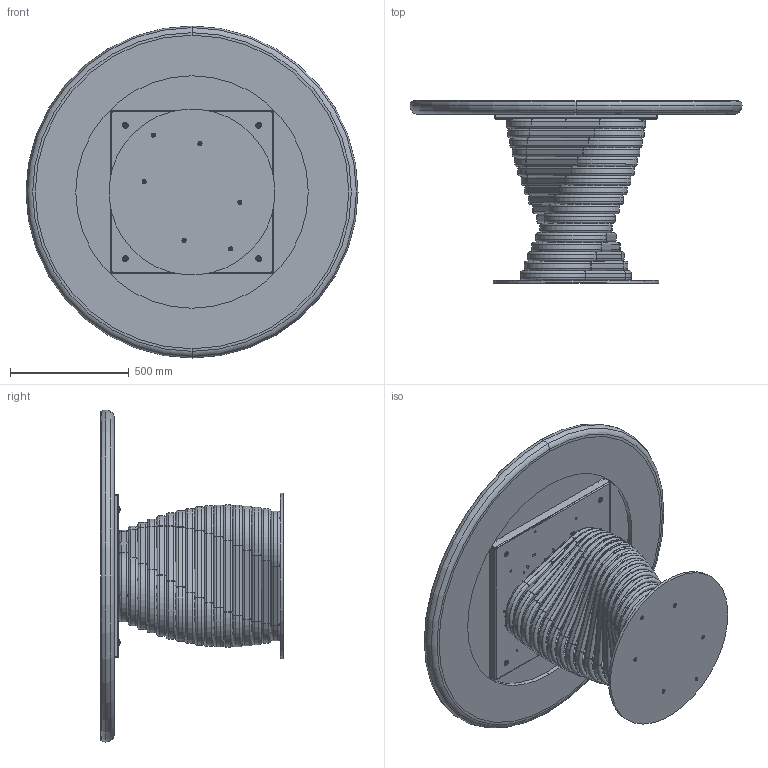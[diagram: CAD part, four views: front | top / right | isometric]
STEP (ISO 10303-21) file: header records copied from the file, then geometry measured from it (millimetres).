
FILE_DESCRIPTION (( 'STEP AP203' ), '1' );
FILE_NAME ('RO06K_Rotolo_d.140_King.STEP', '2024-08-02T07:04:59', ( '' ), ( '' ), 'SwSTEP 2.0', 'SolidWorks 2022', '' );
FILE_SCHEMA (( 'CONFIG_CONTROL_DESIGN' ));
Length unit declared in the file: millimetre
Products named in the file (15): TTAV0801-02-TELAIO UNIVERSALE TONDO-VASSOIO; K92-00-PIANO SOLO CERAMICA D.136.7cm X PIANO C BORDO; W92-01-PIANO KING BORDO Ø140 SAGOMATO LACCATO; ROBX00000MED-00-Anello rotolo MEDIO_Default<A macchina>; COLLO TELAIO UNIVERSALE TTAV0801 CON FERRAMENTA_MTG TOP LEGNO-MARMO-KING; ASSIEME PIANO KING_PIANO+CERAMICA DIAM140; TTAV0801-02-TELAIO UNIVERSALE TONDO; ROBX00000SUP-00-Anello rotolo SUPERIORE_Default<A macchina>; RO06K_Rotolo_d.140_King; ROBX00000-00-ROTOLO BASE 17 ANELLI; ROB200000-00-PIASTRA BASE_Ø70cm; M8xXXmm_M8x55mm; ROBX00000INF-00-Anello rotolo INFERIORE_Default<A macchina>; rondella M8_8X24; TTAV0801 TELAIO UNIVERSALE TONDO-PIASTRINA
Assembly tree (37 placements, depth 4):
  RO06K_Rotolo_d.140_King
    ROB200000-00-PIASTRA BASE_Ø70cm
    ROBX00000-00-ROTOLO BASE 17 ANELLI
      ROBX00000INF-00-Anello rotolo INFERIORE_Default<A macchina>
      ROBX00000MED-00-Anello rotolo MEDIO_Default<A macchina>  x15
      ROBX00000SUP-00-Anello rotolo SUPERIORE_Default<A macchina>
    COLLO TELAIO UNIVERSALE TTAV0801 CON FERRAMENTA_MTG TOP LEGNO-MARMO-KING
      TTAV0801-02-TELAIO UNIVERSALE TONDO
        TTAV0801-02-TELAIO UNIVERSALE TONDO-VASSOIO
        TTAV0801 TELAIO UNIVERSALE TONDO-PIASTRINA  x4
      rondella M8_8X24  x4
      M8xXXmm_M8x55mm  x4
    ASSIEME PIANO KING_PIANO+CERAMICA DIAM140
      W92-01-PIANO KING BORDO Ø140 SAGOMATO LACCATO
      K92-00-PIANO SOLO CERAMICA D.136.7cm X PIANO C BORDO
Bounding box: 1400 x 768 x 1400 mm (x, y, z)
Volume: 80859522.3 mm3; surface area: 13160345.9 mm2
Topology: 84 solids, 84 shells, 1414 faces, 3586 edges, 2324 vertices
Faces by surface type: cylinder 586, plane 562, torus 194, cone 72
Entity records: 22039 total; most frequent: CARTESIAN_POINT 4962, DIRECTION 3226, ORIENTED_EDGE 3030, EDGE_CURVE 1515, AXIS2_PLACEMENT_3D 1190, VERTEX_POINT 982, LINE 846, VECTOR 846
